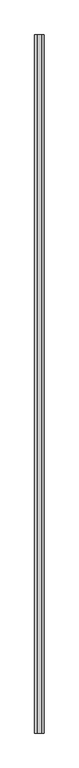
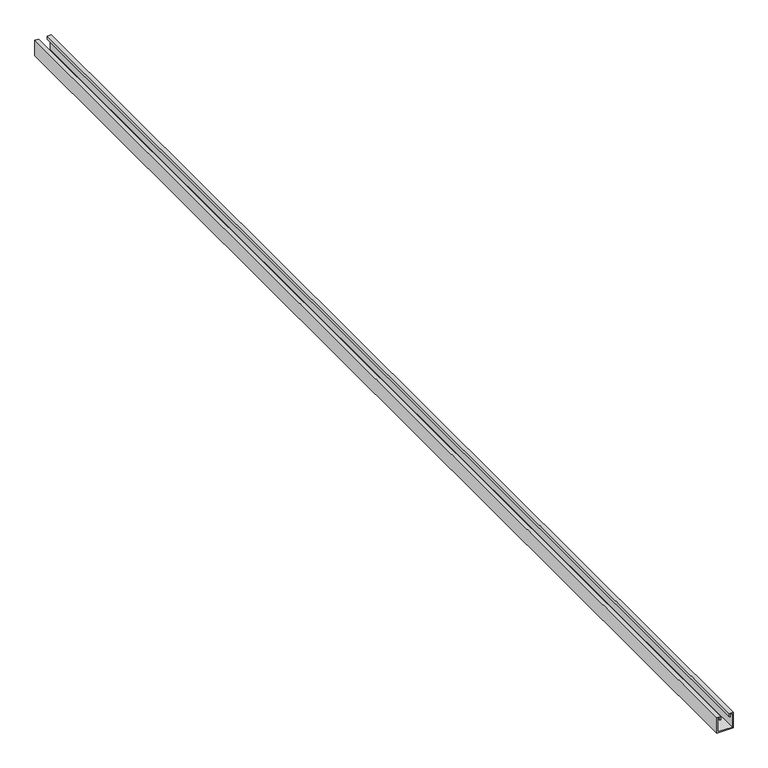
"""IFC4 building model written with IfcOpenShell, lengths in millimetres: proxy geometry, P41_Profile-Basorfix : Basorfix P41 41x41x2.5  D11 3M GC."""

from ifc_helpers import new_model, si_unit, frame, origin, place, context, project, spatial, polyline, outline, extrude, source, transform, mapped, element, save


def generic_models_c8c5d6dd(model_context):
    return source(origin(), model_context, "Body", "SweptSolid", [
        extrude(outline(polyline([(41.0, -20.5), (0.0, -20.5), (0.0, 20.5), (41.0, 20.5), (41.0, 11.0), (32.5, 11.0), (32.5, 13.5), (38.5, 13.5), (38.5, 18.0), (2.5, 18.0), (2.5, -18.0), (38.5, -18.0), (38.5, -13.5), (32.5, -13.5), (32.5, -11.0), (41.0, -11.0), (41.0, -20.5)])), frame((0.0, -1500.0, 0.0), z_axis=(0.0, 1.0, 0.0), x_axis=(0.0, 0.0, 1.0)), (0.0, 0.0, 1.0), 3000.0),
    ])


if __name__ == "__main__":
    model = new_model("IFC4")
    model_context = context("Model", 3, world=origin())
    ifc_project = project(units=[si_unit("LENGTHUNIT", "METRE", prefix="MILLI")], contexts=[model_context])
    site = spatial("IfcSite", under=ifc_project)
    building = spatial("IfcBuilding", under=site)
    placement = place(None, origin())
    generic_models_shape = generic_models_c8c5d6dd(model_context)
    element("IfcBuildingElementProxy", 1, Name="P41_Profile-Basorfix : Basorfix P41 41x41x2.5  D11 3M GC", ObjectType="P41_Profile-Basorfix : Basorfix P41 41x41x2.5  D11 3M GC", at=placement, inside=building, context=model_context, shape_type="MappedRepresentation", body=[
        mapped(generic_models_shape, transform((0.0, 0.0, 0.0), x_axis=(1.0, 0.0, 0.0), y_axis=(0.0, 1.0, 0.0), z_axis=(0.0, 0.0, 1.0))),
    ])
    save(model, "model.ifc")
